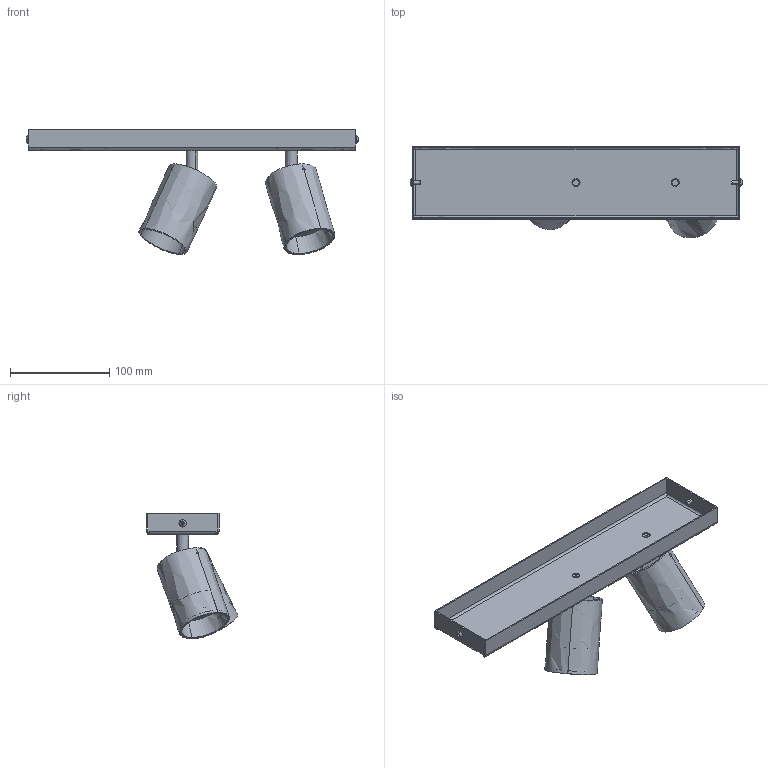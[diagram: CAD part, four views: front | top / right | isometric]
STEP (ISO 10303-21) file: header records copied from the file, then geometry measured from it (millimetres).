
FILE_DESCRIPTION(/* description */ (''),/* implementation_level */ '2;1');
FILE_NAME(/* name */ 'P125__.033',/* time_stamp */ '2024-08-30T14:01:58+02:00',/* author */ (''),/* organization */ (''),/* preprocessor_version */ 'ST-DEVELOPER v16.5',/* originating_system */ '',/* authorisation */ '');
FILE_SCHEMA (('AUTOMOTIVE_DESIGN'));
Length unit declared in the file: millimetre
Products named in the file (1): Document
Bounding box: 334.4 x 92.26 x 126.2 mm (x, y, z)
Volume: 122174.8 mm3; surface area: 182963.8 mm2
Topology: 24 solids, 25 shells, 708 faces, 1826 edges, 1158 vertices
Faces by surface type: plane 364, bspline 344
Entity records: 26401 total; most frequent: CARTESIAN_POINT 15241, ORIENTED_EDGE 3612, EDGE_CURVE 1810, VERTEX_POINT 1158, B_SPLINE_CURVE_WITH_KNOTS 1086, EDGE_LOOP 794, ADVANCED_FACE 708, FACE_OUTER_BOUND 708
